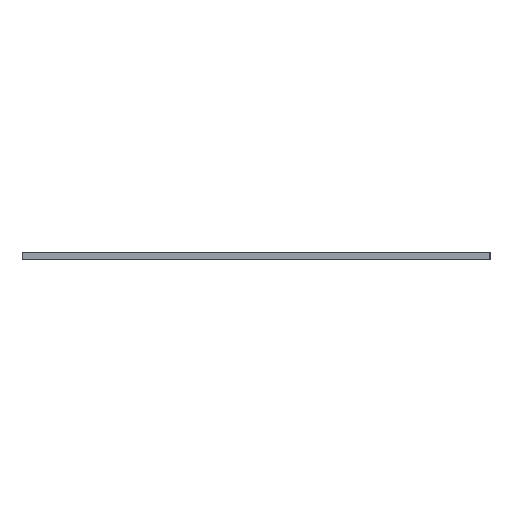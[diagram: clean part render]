
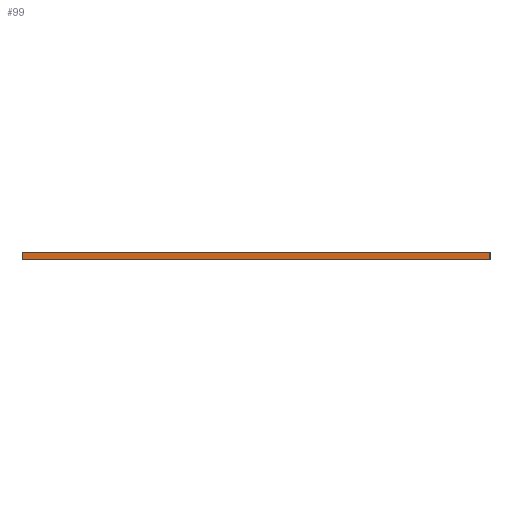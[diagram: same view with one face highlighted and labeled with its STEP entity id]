
A CAD part, left-side view. The second image highlights one B-rep face of the part: STEP entity #99.
In plain terms, the highlighted planar face has unit normal (-1, 0, 0).
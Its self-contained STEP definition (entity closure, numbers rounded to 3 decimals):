
#43 = VERTEX_POINT('',#44);
#44 = CARTESIAN_POINT('',(0.,-100.,1.51));
#50 = EDGE_CURVE('',#51,#43,#53,.T.);
#51 = VERTEX_POINT('',#52);
#52 = CARTESIAN_POINT('',(0.,-100.,0.));
#53 = LINE('',#54,#55);
#54 = CARTESIAN_POINT('',(0.,-100.,0.));
#55 = VECTOR('',#56,1.);
#56 = DIRECTION('',(0.,0.,1.));
#99 = ADVANCED_FACE('',(#100),#125,.T.);
#100 = FACE_BOUND('',#101,.T.);
#101 = EDGE_LOOP('',(#102,#103,#111,#119));
#102 = ORIENTED_EDGE('',*,*,#50,.T.);
#103 = ORIENTED_EDGE('',*,*,#104,.T.);
#104 = EDGE_CURVE('',#43,#105,#107,.T.);
#105 = VERTEX_POINT('',#106);
#106 = CARTESIAN_POINT('',(0.,0.,1.51));
#107 = LINE('',#108,#109);
#108 = CARTESIAN_POINT('',(0.,-100.,1.51));
#109 = VECTOR('',#110,1.);
#110 = DIRECTION('',(0.,1.,0.));
#111 = ORIENTED_EDGE('',*,*,#112,.F.);
#112 = EDGE_CURVE('',#113,#105,#115,.T.);
#113 = VERTEX_POINT('',#114);
#114 = CARTESIAN_POINT('',(0.,-0.,0.));
#115 = LINE('',#116,#117);
#116 = CARTESIAN_POINT('',(0.,-0.,0.));
#117 = VECTOR('',#118,1.);
#118 = DIRECTION('',(0.,0.,1.));
#119 = ORIENTED_EDGE('',*,*,#120,.F.);
#120 = EDGE_CURVE('',#51,#113,#121,.T.);
#121 = LINE('',#122,#123);
#122 = CARTESIAN_POINT('',(0.,-100.,0.));
#123 = VECTOR('',#124,1.);
#124 = DIRECTION('',(0.,1.,0.));
#125 = PLANE('',#126);
#126 = AXIS2_PLACEMENT_3D('',#127,#128,#129);
#127 = CARTESIAN_POINT('',(0.,-100.,0.));
#128 = DIRECTION('',(-1.,0.,0.));
#129 = DIRECTION('',(0.,1.,0.));
